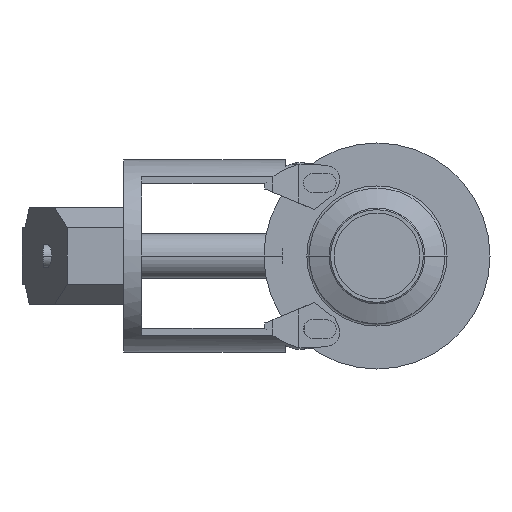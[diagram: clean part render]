
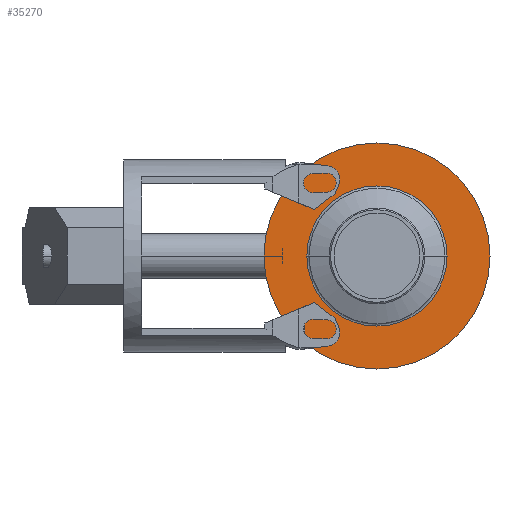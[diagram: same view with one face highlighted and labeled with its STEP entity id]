
A CAD part, left-side view. The second image highlights one B-rep face of the part: STEP entity #35270.
In plain terms, the highlighted planar face has unit normal (-1, 0, 0).
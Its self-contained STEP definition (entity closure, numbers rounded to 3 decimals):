
#34920=CARTESIAN_POINT('',(-83.686,56.962,0.));
#34930=DIRECTION('',(1.,0.,0.));
#34940=DIRECTION('',(0.,-1.,0.));
#34950=AXIS2_PLACEMENT_3D('',#34920,#34930,#34940);
#34960=PLANE('',#34950);
#34970=CARTESIAN_POINT('',(-83.686,9.312,0.));
#34980=DIRECTION('',(1.,0.,0.));
#34990=DIRECTION('',(0.,1.,0.));
#35000=AXIS2_PLACEMENT_3D('',#34970,#34980,#34990);
#35010=CIRCLE('',#35000,31.);
#35020=CARTESIAN_POINT('',(-83.686,40.312,0.));
#35030=VERTEX_POINT('',#35020);
#35040=CARTESIAN_POINT('',(-83.686,-21.688,0.));
#35050=VERTEX_POINT('',#35040);
#35060=EDGE_CURVE('',#35030,#35050,#35010,.T.);
#35070=ORIENTED_EDGE('',*,*,#35060,.T.);
#35080=EDGE_CURVE('',#35050,#35030,#35010,.T.);
#35090=ORIENTED_EDGE('',*,*,#35080,.T.);
#35100=EDGE_LOOP('',(#35090,#35070));
#35110=FACE_BOUND('',#35100,.T.);
#35120=CARTESIAN_POINT('',(-83.686,9.312,0.));
#35130=DIRECTION('',(1.,0.,0.));
#35140=DIRECTION('',(0.,1.,0.));
#35150=AXIS2_PLACEMENT_3D('',#35120,#35130,#35140);
#35160=CIRCLE('',#35150,50.);
#35170=CARTESIAN_POINT('',(-83.686,-40.688,0.));
#35180=VERTEX_POINT('',#35170);
#35190=CARTESIAN_POINT('',(-83.686,59.312,
0.));
#35200=VERTEX_POINT('',#35190);
#35210=EDGE_CURVE('',#35180,#35200,#35160,.T.);
#35220=ORIENTED_EDGE('',*,*,#35210,.F.);
#35230=EDGE_CURVE('',#35200,#35180,#35160,.T.);
#35240=ORIENTED_EDGE('',*,*,#35230,.F.);
#35250=EDGE_LOOP('',(#35240,#35220));
#35260=FACE_OUTER_BOUND('',#35250,.T.);
#35270=ADVANCED_FACE('',(#35110,#35260),#34960,.F.);
